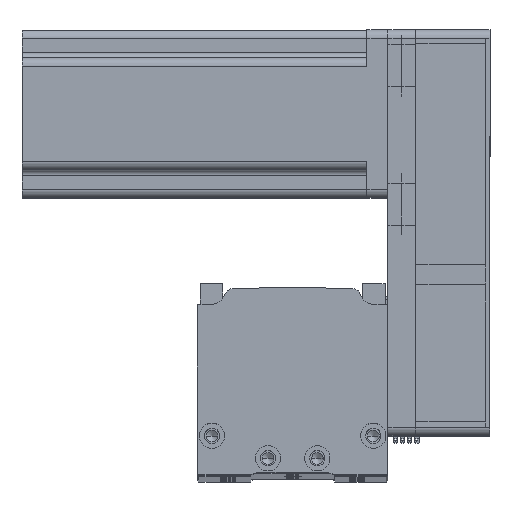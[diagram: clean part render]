
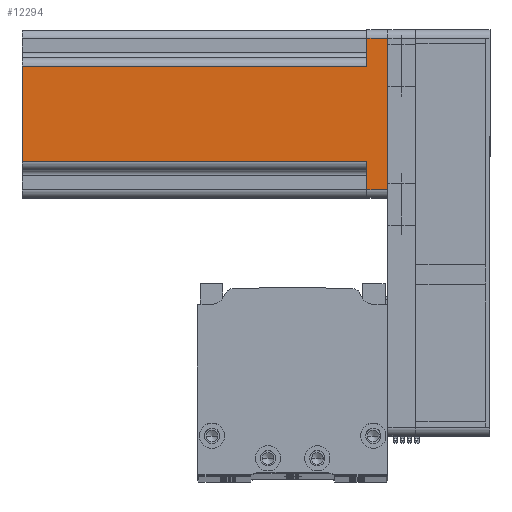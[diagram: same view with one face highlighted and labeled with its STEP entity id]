
A CAD part, top view. The second image highlights one B-rep face of the part: STEP entity #12294.
In plain terms, the highlighted planar face has unit normal (0, 0, 1) as drawn and (0, -1, 0) by its records, which use the part's own axes.
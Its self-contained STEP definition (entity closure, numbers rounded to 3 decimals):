
#120 = VECTOR ( 'NONE', #41136, 1000. ) ;
#846 = CARTESIAN_POINT ( 'NONE',  ( 27., -30., 7.5 ) ) ;
#1094 = EDGE_CURVE ( 'NONE', #22270, #26263, #9844, .T. ) ;
#1426 = VERTEX_POINT ( 'NONE', #33779 ) ;
#1459 = LINE ( 'NONE', #19790, #120 ) ;
#2369 = CARTESIAN_POINT ( 'NONE',  ( -27., -30., 130.7 ) ) ;
#2682 = VECTOR ( 'NONE', #25143, 1000. ) ;
#5435 = VECTOR ( 'NONE', #37755, 1000. ) ;
#8441 = VERTEX_POINT ( 'NONE', #846 ) ;
#8644 = CARTESIAN_POINT ( 'NONE',  ( -17., -30., 7.5 ) ) ;
#9163 = EDGE_CURVE ( 'NONE', #38097, #24869, #1459, .T. ) ;
#9844 = LINE ( 'NONE', #2369, #54038 ) ;
#10205 = CARTESIAN_POINT ( 'NONE',  ( -27., -30., 7.5 ) ) ;
#10532 = VECTOR ( 'NONE', #24124, 1000. ) ;
#11575 = VECTOR ( 'NONE', #35355, 1000. ) ;
#11606 = EDGE_LOOP ( 'NONE', ( #23511, #54669, #46646, #31564, #29578, #51700, #53379, #23527 ) ) ;
#12294 = ADVANCED_FACE ( 'NONE', ( #45038 ), #28514, .F. ) ;
#13572 = DIRECTION ( 'NONE',  ( 0., 0., 1. ) ) ;
#13988 = LINE ( 'NONE', #33583, #2682 ) ;
#15294 = VERTEX_POINT ( 'NONE', #24222 ) ;
#16824 = EDGE_CURVE ( 'NONE', #22270, #24869, #13988, .T. ) ;
#19790 = CARTESIAN_POINT ( 'NONE',  ( -17., -30., 130.7 ) ) ;
#19811 = CARTESIAN_POINT ( 'NONE',  ( 27., -30., 130.7 ) ) ;
#21519 = AXIS2_PLACEMENT_3D ( 'NONE', #24376, #54288, #28709 ) ;
#21830 = CARTESIAN_POINT ( 'NONE',  ( 17., -30., 130.7 ) ) ;
#22270 = VERTEX_POINT ( 'NONE', #10205 ) ;
#22418 = CARTESIAN_POINT ( 'NONE',  ( 20., -30., 7.5 ) ) ;
#23511 = ORIENTED_EDGE ( 'NONE', *, *, #32240, .F. ) ;
#23527 = ORIENTED_EDGE ( 'NONE', *, *, #54356, .T. ) ;
#23859 = VERTEX_POINT ( 'NONE', #21830 ) ;
#24124 = DIRECTION ( 'NONE',  ( 0., 0., 1. ) ) ;
#24222 = CARTESIAN_POINT ( 'NONE',  ( 27., -30., 0. ) ) ;
#24376 = CARTESIAN_POINT ( 'NONE',  ( 30., -30., 130.7 ) ) ;
#24869 = VERTEX_POINT ( 'NONE', #8644 ) ;
#25143 = DIRECTION ( 'NONE',  ( 1., 0., 0. ) ) ;
#26263 = VERTEX_POINT ( 'NONE', #50938 ) ;
#28514 = PLANE ( 'NONE',  #21519 ) ;
#28543 = LINE ( 'NONE', #47434, #51319 ) ;
#28709 = DIRECTION ( 'NONE',  ( -1., 0., 0. ) ) ;
#29578 = ORIENTED_EDGE ( 'NONE', *, *, #44841, .T. ) ;
#31564 = ORIENTED_EDGE ( 'NONE', *, *, #1094, .T. ) ;
#32240 = EDGE_CURVE ( 'NONE', #38097, #23859, #28543, .T. ) ;
#33449 = CARTESIAN_POINT ( 'NONE',  ( 30., -30., 0. ) ) ;
#33583 = CARTESIAN_POINT ( 'NONE',  ( -20., -30., 7.5 ) ) ;
#33779 = CARTESIAN_POINT ( 'NONE',  ( 17., -30., 7.5 ) ) ;
#34364 = LINE ( 'NONE', #22418, #11575 ) ;
#34536 = DIRECTION ( 'NONE',  ( 1., 0., 0. ) ) ;
#35355 = DIRECTION ( 'NONE',  ( -1., 0., 0. ) ) ;
#37755 = DIRECTION ( 'NONE',  ( 1., 0., 0. ) ) ;
#38097 = VERTEX_POINT ( 'NONE', #54390 ) ;
#39539 = LINE ( 'NONE', #33449, #5435 ) ;
#40309 = EDGE_CURVE ( 'NONE', #8441, #1426, #34364, .T. ) ;
#41136 = DIRECTION ( 'NONE',  ( 0., 0., -1. ) ) ;
#42641 = LINE ( 'NONE', #43508, #53990 ) ;
#43508 = CARTESIAN_POINT ( 'NONE',  ( 17., -30., 130.7 ) ) ;
#44720 = LINE ( 'NONE', #19811, #10532 ) ;
#44841 = EDGE_CURVE ( 'NONE', #26263, #15294, #39539, .T. ) ;
#45038 = FACE_OUTER_BOUND ( 'NONE', #11606, .T. ) ;
#46646 = ORIENTED_EDGE ( 'NONE', *, *, #16824, .F. ) ;
#47434 = CARTESIAN_POINT ( 'NONE',  ( 30., -30., 130.7 ) ) ;
#49899 = EDGE_CURVE ( 'NONE', #15294, #8441, #44720, .T. ) ;
#50938 = CARTESIAN_POINT ( 'NONE',  ( -27., -30., 0. ) ) ;
#51319 = VECTOR ( 'NONE', #34536, 1000. ) ;
#51700 = ORIENTED_EDGE ( 'NONE', *, *, #49899, .T. ) ;
#53340 = DIRECTION ( 'NONE',  ( 0., 0., -1. ) ) ;
#53379 = ORIENTED_EDGE ( 'NONE', *, *, #40309, .T. ) ;
#53990 = VECTOR ( 'NONE', #13572, 1000. ) ;
#54038 = VECTOR ( 'NONE', #53340, 1000. ) ;
#54288 = DIRECTION ( 'NONE',  ( 0., 1., 0. ) ) ;
#54356 = EDGE_CURVE ( 'NONE', #1426, #23859, #42641, .T. ) ;
#54390 = CARTESIAN_POINT ( 'NONE',  ( -17., -30., 130.7 ) ) ;
#54669 = ORIENTED_EDGE ( 'NONE', *, *, #9163, .T. ) ;
